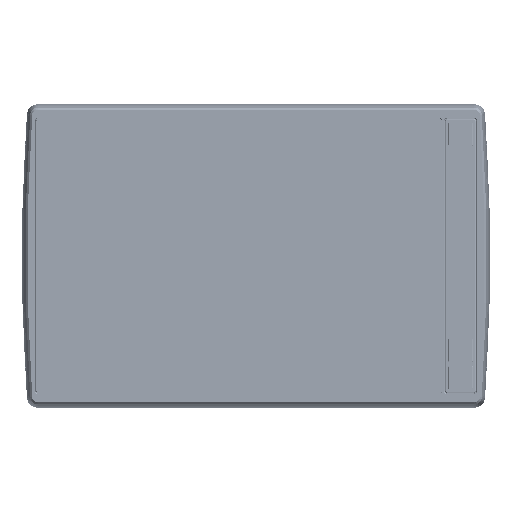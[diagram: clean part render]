
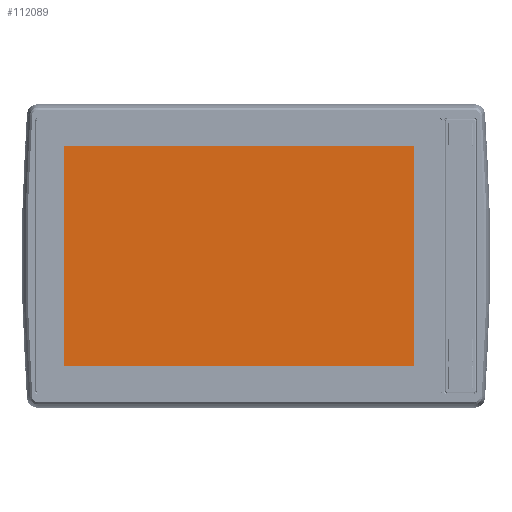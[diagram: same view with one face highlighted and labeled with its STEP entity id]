
A CAD part, top view. The second image highlights one B-rep face of the part: STEP entity #112089.
In plain terms, the highlighted planar face has unit normal (0, 0, 1) as drawn and (0, 0, -1) by its records, which use the part's own axes.
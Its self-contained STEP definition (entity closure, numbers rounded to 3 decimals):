
#8688=ORIENTED_EDGE('',*,*,#32252,.F.);
#8689=ORIENTED_EDGE('',*,*,#32253,.F.);
#8690=ORIENTED_EDGE('',*,*,#32254,.F.);
#8691=ORIENTED_EDGE('',*,*,#32255,.F.);
#32252=EDGE_CURVE('',#44095,#44096,#51716,.T.);
#32253=EDGE_CURVE('',#44097,#44095,#51717,.T.);
#32254=EDGE_CURVE('',#44098,#44097,#51718,.T.);
#32255=EDGE_CURVE('',#44096,#44098,#51719,.T.);
#44095=VERTEX_POINT('',#146700);
#44096=VERTEX_POINT('',#146701);
#44097=VERTEX_POINT('',#146703);
#44098=VERTEX_POINT('',#146705);
#51716=LINE('',#146699,#58330);
#51717=LINE('',#146702,#58331);
#51718=LINE('',#146704,#58332);
#51719=LINE('',#146706,#58333);
#58330=VECTOR('',#124851,1000.);
#58331=VECTOR('',#124852,1000.);
#58332=VECTOR('',#124853,1000.);
#58333=VECTOR('',#124854,1000.);
#64980=EDGE_LOOP('',(#8688,#8689,#8690,#8691));
#70620=FACE_BOUND('',#64980,.T.);
#76136=PLANE('',#117189);
#112089=ADVANCED_FACE('',(#70620),#76136,.T.);
#117189=AXIS2_PLACEMENT_3D('',#146698,#124849,#124850);
#124849=DIRECTION('',(0.,0.,-1.));
#124850=DIRECTION('',(0.,1.,0.));
#124851=DIRECTION('',(0.,-1.,0.));
#124852=DIRECTION('',(-1.,0.,0.));
#124853=DIRECTION('',(0.,1.,0.));
#124854=DIRECTION('',(1.,0.,0.));
#146698=CARTESIAN_POINT('',(-95.45,62.4,0.));
#146699=CARTESIAN_POINT('',(-131.06,80.475,0.));
#146700=CARTESIAN_POINT('',(-131.06,80.475,0.));
#146701=CARTESIAN_POINT('',(-131.06,-83.725,0.));
#146702=CARTESIAN_POINT('',(131.06,80.475,0.));
#146703=CARTESIAN_POINT('',(131.06,80.475,0.));
#146704=CARTESIAN_POINT('',(131.06,-83.725,0.));
#146705=CARTESIAN_POINT('',(131.06,-83.725,0.));
#146706=CARTESIAN_POINT('',(-131.06,-83.725,0.));
